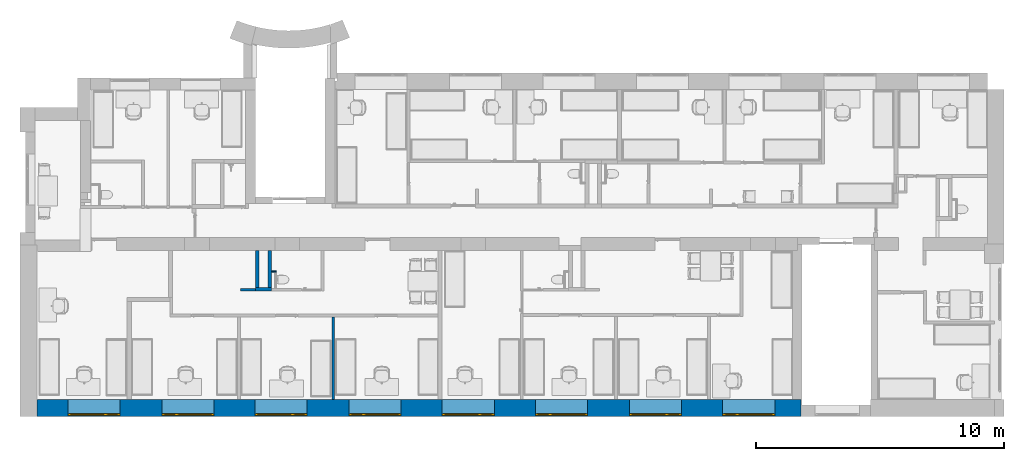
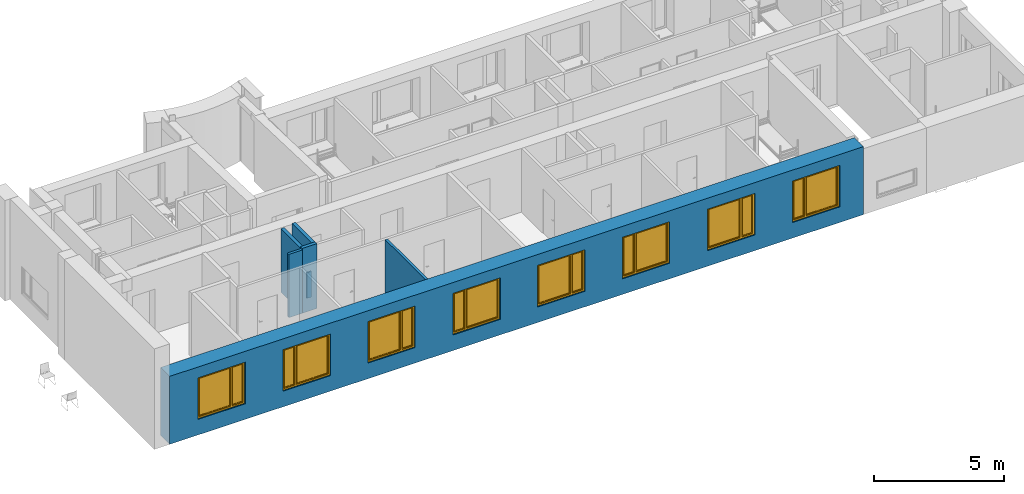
# One storey, part 3 of 46: 8 windows, 7 walls, 10 openings.
"""IFC2X3 building model written with IfcOpenShell, lengths in millimetres."""

import ifcopenshell
import ifcopenshell.guid

model = None  # the IFC model being written
_history = None  # IfcOwnerHistory: only IFC2X3 demands one
_inside = {}  # id of a spatial element -> (the spatial element, [elements in it])
_under = {}  # id of a project, library or spatial element -> (it, [spatial elements below it])
_declared = {}  # id of a project -> (the project, [libraries it declares])
_typed = {}  # id of a type object -> (the type object, [elements of that type])
_made_of = {}  # id of a material, layer set ... -> (it, [elements and type objects made of it])


def new_model(schema):
    """Start an empty IFC model of exactly this schema.

    Asked for "IFC4X3", IfcOpenShell would pick the latest addendum, in which some entities
    have other attributes; the version numbers below select the first issue.
    IFC2X3 requires an IfcOwnerHistory on every rooted entity: one is made here for all.
    """
    global model, _history
    if schema == "IFC4X3":
        model = ifcopenshell.file(schema_version=(4, 3, 0, 0))
    else:
        model = ifcopenshell.file(schema=schema)
    _inside.clear()
    _under.clear()
    _declared.clear()
    _typed.clear()
    _made_of.clear()
    _history = None
    if model.schema == "IFC2X3":
        org = make("IfcOrganization", Name="unknown")
        user = make(
            "IfcPersonAndOrganization",
            ThePerson=make("IfcPerson", FamilyName="unknown"),
            TheOrganization=org,
        )
        app = make(
            "IfcApplication",
            ApplicationDeveloper=org,
            Version="unknown",
            ApplicationFullName="unknown",
            ApplicationIdentifier="unknown",
        )
        _history = make(
            "IfcOwnerHistory",
            OwningUser=user,
            OwningApplication=app,
            ChangeAction="ADDED",
            CreationDate=0,
        )
    return model


def make(cls, **values):
    """One entity of the class cls with the attributes given. An attribute that is None is left unset."""
    return model.create_entity(
        cls, **{name: value for name, value in values.items() if value is not None}
    )


def entity(cls, *values):
    """Any entity or typed value of the class cls, its attributes in the order of the schema. None: left unset."""
    e = model.create_entity(cls)
    for i, value in enumerate(values):
        if value is not None:
            e[i] = value
    return e


def rooted(cls, **values):
    """An entity with a GlobalId (a new one), such as an element, a storey or a relation."""
    return make(cls, GlobalId=ifcopenshell.guid.new(), OwnerHistory=_history, **values)


def si_unit(unit_type, name, prefix=None):
    """IfcSIUnit, for example si_unit("LENGTHUNIT", "METRE", prefix="MILLI")."""
    return make("IfcSIUnit", UnitType=unit_type, Prefix=prefix, Name=name)


def converted_unit(unit_type, name, factor, base, dimensions=None, offset=None):
    """IfcConversionBasedUnit, such as the inch: factor (a typed value) times the base unit."""
    return make(
        "IfcConversionBasedUnit"
        if offset is None
        else "IfcConversionBasedUnitWithOffset",
        ConversionOffset=offset,
        Dimensions=None
        if dimensions is None
        else entity("IfcDimensionalExponents", *dimensions),
        UnitType=unit_type,
        Name=name,
        ConversionFactor=make(
            "IfcMeasureWithUnit", ValueComponent=factor, UnitComponent=base
        ),
    )


def derived_unit(unit_type, elements):
    """IfcDerivedUnit: a product of units, each with its exponent."""
    return make(
        "IfcDerivedUnit",
        Elements=[
            make("IfcDerivedUnitElement", Unit=unit, Exponent=power)
            for unit, power in elements
        ],
        UnitType=unit_type,
    )


def assignment(units):
    """IfcUnitAssignment: the units of a project."""
    return None if units is None else make("IfcUnitAssignment", Units=units)


def point(xyz):
    """IfcCartesianPoint."""
    return None if xyz is None else make("IfcCartesianPoint", Coordinates=xyz)


def direction(xyz):
    """IfcDirection."""
    return None if xyz is None else make("IfcDirection", DirectionRatios=xyz)


def frame(location, z_axis=None, x_axis=None):
    """IfcAxis2Placement3D, a coordinate frame: its origin and axes. An axis left out is left unset."""
    return make(
        "IfcAxis2Placement3D",
        Location=point(location),
        Axis=direction(z_axis),
        RefDirection=direction(x_axis),
    )


def frame_2d(location, x_axis=None):
    """IfcAxis2Placement2D, a coordinate frame in the plane: its origin and x axis."""
    return make(
        "IfcAxis2Placement2D", Location=point(location), RefDirection=direction(x_axis)
    )


def origin():
    """The frame at (0, 0, 0) with its axes left unset."""
    return frame((0.0, 0.0, 0.0))


def place(relative_to, where):
    """IfcLocalPlacement: puts the frame where relative to a parent placement (None: the world)."""
    return make(
        "IfcLocalPlacement", PlacementRelTo=relative_to, RelativePlacement=where
    )


def context(
    kind, dimensions, precision=None, world=None, true_north=None, identifier=None
):
    """IfcGeometricRepresentationContext, for example the 3D "Model" context."""
    return make(
        "IfcGeometricRepresentationContext",
        ContextIdentifier=identifier,
        ContextType=kind,
        CoordinateSpaceDimension=dimensions,
        Precision=precision,
        WorldCoordinateSystem=world,
        TrueNorth=true_north,
    )


def subcontext(parent, identifier, kind, view, scale=None):
    """IfcGeometricRepresentationSubContext, for example "Body" below "Model"."""
    return make(
        "IfcGeometricRepresentationSubContext",
        ContextIdentifier=identifier,
        ContextType=kind,
        ParentContext=parent,
        TargetScale=scale,
        TargetView=view,
    )


def project(units=None, contexts=None):
    """IfcProject with its units and contexts."""
    return rooted(
        "IfcProject",
        Name="project",
        RepresentationContexts=contexts,
        UnitsInContext=assignment(units),
    )


def spatial(cls, under=None, at=None, **own):
    """A site, building, storey or space (cls), placed at a placement, below another one or the project."""
    s = rooted(cls, ObjectPlacement=at, **own)
    if under is not None:
        _under.setdefault(under.id(), (under, []))[1].append(s)
    return s


def polyline(points):
    """IfcPolyline through the points."""
    return make("IfcPolyline", Points=[point(p) for p in points])


def profile(cls, at=None, kind="AREA", **sizes):
    """A parametric profile (cls). Its sizes go by their IFC names, for example OverallWidth=200.0."""
    return make(cls, ProfileType=kind, Position=at, **sizes)


def rectangle(**sizes):
    """IfcRectangleProfileDef."""
    return profile("IfcRectangleProfileDef", **sizes)


def extrude(swept, where, along, depth):
    """IfcExtrudedAreaSolid: the profile swept, set in the frame where, extruded along a direction by depth."""
    return make(
        "IfcExtrudedAreaSolid",
        SweptArea=swept,
        Position=where,
        ExtrudedDirection=direction(along),
        Depth=depth,
    )


def clip(a, b, op="DIFFERENCE"):
    """IfcBooleanClippingResult: the solid a cut by the half space b."""
    return make(
        "IfcBooleanClippingResult", Operator=op, FirstOperand=a, SecondOperand=b
    )


def bounded_halfspace(plane, agree, where, boundary):
    """IfcPolygonalBoundedHalfSpace: a half space limited to a polygon's prism."""
    return make(
        "IfcPolygonalBoundedHalfSpace",
        BaseSurface=make("IfcPlane", Position=plane),
        AgreementFlag=agree,
        Position=where,
        PolygonalBoundary=boundary,
    )


def faces_of(points, faces, orient=None, outer=None):
    """IfcFace entities. A face is a list of loops; a loop is a list of indices into points, from 0.

    orient and outer hold one flag for each loop. By default every Orientation is true, the
    first loop of a face is its IfcFaceOuterBound and the others are IfcFaceBound.
    """
    made = []
    for i, loops in enumerate(faces):
        bounds = []
        for j, loop in enumerate(loops):
            is_outer = j == 0 if outer is None else outer[i][j]
            bounds.append(
                make(
                    "IfcFaceOuterBound" if is_outer else "IfcFaceBound",
                    Bound=make("IfcPolyLoop", Polygon=[points[k] for k in loop]),
                    Orientation=True if orient is None else orient[i][j],
                )
            )
        made.append(make("IfcFace", Bounds=bounds))
    return made


def faceted_brep(points, faces, orient=None, outer=None, voids=None):
    """IfcFacetedBrep: a solid bounded by flat faces; with voids (closed shells), ...WithVoids."""
    shared = [point(p) for p in points]
    hull = make("IfcClosedShell", CfsFaces=faces_of(shared, faces, orient, outer))
    if voids is None:
        return make("IfcFacetedBrep", Outer=hull)
    return make(
        "IfcFacetedBrepWithVoids",
        Outer=hull,
        Voids=[
            make(cls, CfsFaces=faces_of(shared, fs, o, b)) for cls, fs, o, b in voids
        ],
    )


def shape(context_of_items, identifier, shape_type, items):
    """IfcShapeRepresentation: the items that make up one representation, for example the "Body"."""
    return make(
        "IfcShapeRepresentation",
        ContextOfItems=context_of_items,
        RepresentationIdentifier=identifier,
        RepresentationType=shape_type,
        Items=items,
    )


def source(mapping_origin, context_of_items, identifier, shape_type, items):
    """IfcRepresentationMap: a shape defined once, which mapped items show again and again."""
    return make(
        "IfcRepresentationMap",
        MappingOrigin=mapping_origin,
        MappedRepresentation=shape(context_of_items, identifier, shape_type, items),
    )


def transform(
    local_origin,
    x_axis=None,
    y_axis=None,
    z_axis=None,
    scale=None,
    scale2=None,
    scale3=None,
    uniform=True,
):
    """IfcCartesianTransformationOperator3D, or its non-uniform kind. x_axis, y_axis, z_axis: its Axis1, 2, 3."""
    if uniform:
        return make(
            "IfcCartesianTransformationOperator3D",
            Axis1=direction(x_axis),
            Axis2=direction(y_axis),
            LocalOrigin=point(local_origin),
            Scale=scale,
            Axis3=direction(z_axis),
        )
    return make(
        "IfcCartesianTransformationOperator3DnonUniform",
        Axis1=direction(x_axis),
        Axis2=direction(y_axis),
        LocalOrigin=point(local_origin),
        Scale=scale,
        Axis3=direction(z_axis),
        Scale2=scale2,
        Scale3=scale3,
    )


def mapped(mapping_source, mapping_target):
    """IfcMappedItem: shows the shape of a source again, moved by a transform."""
    return make(
        "IfcMappedItem", MappingSource=mapping_source, MappingTarget=mapping_target
    )


def material(Name=None, Category=None):
    """IfcMaterial."""
    return make("IfcMaterial", Name=Name, Category=Category)


def material_list(materials):
    """IfcMaterialList."""
    return make("IfcMaterialList", Materials=materials)


def layer(
    of_material, thickness, ventilated=None, Name=None, Category=None, Priority=None
):
    """IfcMaterialLayer: one layer of a wall or slab, of a material (None: an air gap)."""
    return make(
        "IfcMaterialLayer",
        Material=of_material,
        LayerThickness=thickness,
        IsVentilated=ventilated,
        Name=Name,
        Category=Category,
        Priority=Priority,
    )


def layer_set(layers, Name=None):
    """IfcMaterialLayerSet."""
    return make("IfcMaterialLayerSet", MaterialLayers=layers, LayerSetName=Name)


def layer_usage(for_layer_set, set_direction, sense, offset, extent=None):
    """IfcMaterialLayerSetUsage: how a layer set lies in its element."""
    return make(
        "IfcMaterialLayerSetUsage",
        ForLayerSet=for_layer_set,
        LayerSetDirection=set_direction,
        DirectionSense=sense,
        OffsetFromReferenceLine=offset,
        ReferenceExtent=extent,
    )


def made_of(thing, what):
    """Note that an element or type object is made of a material, layer set ...; save() writes the relation."""
    if what is not None:
        _made_of.setdefault(what.id(), (what, []))[1].append(thing)
    return thing


def type_object(cls, material=None, **own):
    """A type object (cls), such as IfcWallType, which elements share."""
    return made_of(rooted(cls, **own), material)


def type_shapes(of_type, sources):
    """Give a type object the sources (RepresentationMaps) that its elements show as mapped items."""
    of_type.RepresentationMaps = sources


def element(
    cls,
    number,
    at=None,
    inside=None,
    cuts=None,
    type_object=None,
    material=None,
    context=None,
    identifier="Body",
    shape_type=None,
    held_by="IfcProductDefinitionShape",
    body=None,
    shapes=None,
    **own,
):
    """One element of the class cls, such as IfcWall. Its Tag is "e" and its number.

    at: its placement. inside: the storey or other place that contains it. cuts: it is an
    opening in that element (IfcRelVoidsElement). A single representation is given by context,
    identifier, shape_type and body (its items); several are given by shapes. held_by: the class
    of the entity that holds the representations. save() writes the other relations.
    """
    e = rooted(cls, Tag="e%d" % number, ObjectPlacement=at, **own)
    if body is not None:
        shapes = [shape(context, identifier, shape_type, body)]
    if shapes is not None:
        e.Representation = make(held_by, Representations=shapes)
    if inside is not None:
        _inside.setdefault(inside.id(), (inside, []))[1].append(e)
    if cuts is not None:
        rooted(
            "IfcRelVoidsElement", RelatingBuildingElement=cuts, RelatedOpeningElement=e
        )
    if type_object is not None:
        _typed.setdefault(type_object.id(), (type_object, []))[1].append(e)
    return made_of(e, material)


def fill(opening, filler):
    """IfcRelFillsElement: the door or window that sits in an opening."""
    return rooted(
        "IfcRelFillsElement",
        RelatingOpeningElement=opening,
        RelatedBuildingElement=filler,
    )


def aggregate(whole, parts):
    """IfcRelAggregates: a whole, such as a stair, and the parts it consists of."""
    return rooted("IfcRelAggregates", RelatingObject=whole, RelatedObjects=parts)


def save(model, path):
    """Write the relations noted so far, then the file.

    IfcRelAggregates (storeys below a building ...), IfcRelContainedInSpatialStructure (elements
    in a storey), IfcRelDefinesByType, IfcRelAssociatesMaterial and IfcRelDeclares: one each for
    every whole, place, type object, material and project.
    """
    for whole, parts in _under.values():
        aggregate(whole, parts)
    for where, things in _inside.values():
        rooted(
            "IfcRelContainedInSpatialStructure",
            RelatedElements=things,
            RelatingStructure=where,
        )
    for kind, things in _typed.values():
        rooted("IfcRelDefinesByType", RelatedObjects=things, RelatingType=kind)
    for what, things in _made_of.values():
        rooted("IfcRelAssociatesMaterial", RelatedObjects=things, RelatingMaterial=what)
    for by, libraries in _declared.values():
        rooted("IfcRelDeclares", RelatingContext=by, RelatedDefinitions=libraries)
    model.write(path)


model = new_model("IFC2X3")

# Units and contexts
model_context = context("Model", 3, precision=0.01, world=origin(), true_north=direction((6.12303176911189e-17, 1.0)))
body_context = subcontext(model_context, "Body", "Model", "MODEL_VIEW")
ifc_project = project(units=[si_unit("LENGTHUNIT", "METRE", prefix="MILLI"), si_unit("AREAUNIT", "SQUARE_METRE"), si_unit("VOLUMEUNIT", "CUBIC_METRE"), converted_unit("PLANEANGLEUNIT", "DEGREE", entity("IfcRatioMeasure", 0.0174532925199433), si_unit("PLANEANGLEUNIT", "RADIAN"), dimensions=[0, 0, 0, 0, 0, 0, 0]), si_unit("MASSUNIT", "GRAM", prefix="KILO"), derived_unit("MASSDENSITYUNIT", [(si_unit("MASSUNIT", "GRAM", prefix="KILO"), 1), (si_unit("LENGTHUNIT", "METRE"), -3)]), si_unit("TIMEUNIT", "SECOND"), si_unit("FREQUENCYUNIT", "HERTZ"), si_unit("THERMODYNAMICTEMPERATUREUNIT", "DEGREE_CELSIUS"), derived_unit("THERMALTRANSMITTANCEUNIT", [(si_unit("MASSUNIT", "GRAM", prefix="KILO"), 1), (si_unit("THERMODYNAMICTEMPERATUREUNIT", "KELVIN"), -1), (si_unit("TIMEUNIT", "SECOND"), -3)]), derived_unit("VOLUMETRICFLOWRATEUNIT", [(si_unit("LENGTHUNIT", "METRE"), 3), (si_unit("TIMEUNIT", "SECOND"), -1)]), si_unit("ELECTRICCURRENTUNIT", "AMPERE"), si_unit("ELECTRICVOLTAGEUNIT", "VOLT"), si_unit("POWERUNIT", "WATT"), si_unit("FORCEUNIT", "NEWTON", prefix="KILO"), si_unit("ILLUMINANCEUNIT", "LUX"), si_unit("LUMINOUSFLUXUNIT", "LUMEN"), si_unit("LUMINOUSINTENSITYUNIT", "CANDELA"), derived_unit("USERDEFINED", [(si_unit("MASSUNIT", "GRAM", prefix="KILO"), -1), (si_unit("LENGTHUNIT", "METRE"), -2), (si_unit("TIMEUNIT", "SECOND"), 3), (si_unit("LUMINOUSFLUXUNIT", "LUMEN"), 1)]), derived_unit("LINEARVELOCITYUNIT", [(si_unit("LENGTHUNIT", "METRE"), 1), (si_unit("TIMEUNIT", "SECOND"), -1)]), si_unit("PRESSUREUNIT", "PASCAL"), derived_unit("USERDEFINED", [(si_unit("LENGTHUNIT", "METRE"), -2), (si_unit("MASSUNIT", "GRAM", prefix="KILO"), 1), (si_unit("TIMEUNIT", "SECOND"), -2)]), derived_unit("LINEARFORCEUNIT", [(si_unit("MASSUNIT", "GRAM", prefix="KILO"), 1), (si_unit("LENGTHUNIT", "METRE"), 1), (si_unit("TIMEUNIT", "SECOND"), -2), (si_unit("LENGTHUNIT", "METRE"), -1)]), derived_unit("PLANARFORCEUNIT", [(si_unit("MASSUNIT", "GRAM", prefix="KILO"), 1), (si_unit("LENGTHUNIT", "METRE"), 1), (si_unit("TIMEUNIT", "SECOND"), -2), (si_unit("LENGTHUNIT", "METRE"), -2)])], contexts=[model_context])

# Site, building, storey
site_placement = place(None, origin())
site = spatial("IfcSite", under=ifc_project, at=site_placement, Name="Default", CompositionType="ELEMENT")
building_placement = place(site_placement, origin())
building = spatial("IfcBuilding", under=site, at=building_placement, Name="SMA ARH", CompositionType="ELEMENT")
storey_placement = place(building_placement, frame((0.0, 0.0, 9910.0)))
storey = spatial("IfcBuildingStorey", under=building, at=storey_placement, Name="4 Korrus", CompositionType="ELEMENT", Elevation=9909.9999999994)

# Wall, openings, windows
ifc_material_1 = material(Name="_ol.olev sein")
ifc_layer_1 = layer(ifc_material_1, 700.0)
ifc_layer_set_1 = layer_set([ifc_layer_1], Name="Basic Wall:Generic - 700mm")
ifc_layer_usage_1 = layer_usage(ifc_layer_set_1, "AXIS2", "POSITIVE", -350.0)
wall_type_1 = type_object("IfcWallType", Name="Basic Wall:Generic - 700mm", PredefinedType="STANDARD", material=ifc_layer_set_1)
wall_1_placement = place(storey_placement, frame((-20.0, -350.0, 0.0)))
wall_1 = element("IfcWallStandardCase", 1, at=wall_1_placement, inside=storey, type_object=wall_type_1, material=ifc_layer_usage_1, Name="Basic Wall:Generic - 700mm", ObjectType="Basic Wall:Generic - 700mm", context=body_context, shape_type="Clipping", body=[
    clip(clip(clip(extrude(rectangle(XDim=30800.5990008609, YDim=700.0, at=frame_2d((15400.2995004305, -5.6843418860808e-14), x_axis=(-1.0, 0.0))), origin(), (0.0, 0.0, 1.0), 3190.00000000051), bounded_halfspace(frame((30683.6581492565, 350.0, 3090.0), z_axis=(0.0, 0.0, -1.0), x_axis=(0.0, -1.0, 0.0)), True, frame((30683.6581492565, 350.0, 3090.0), z_axis=(0.0, 0.0, -1.0), x_axis=(0.0, -1.0, 0.0)), polyline([(0.0, 0.0), (0.0, -116.940851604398), (230.0, -116.940851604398), (700.0, -116.9408516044), (700.0, 0.0), (0.0, 0.0)]))), bounded_halfspace(frame((30683.6581492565, -350.0, 3090.0), z_axis=(-1.0, 0.0, 0.0), x_axis=(0.0, -1.0, 0.0)), True, frame((30683.6581492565, -350.0, 3090.0), z_axis=(-1.0, 0.0, 0.0), x_axis=(0.0, -1.0, 0.0)), polyline([(0.0, 0.0), (0.0, 100.0), (-700.0, 100.0), (-700.0, 0.0), (0.0, 0.0)]))), bounded_halfspace(frame((30666.9009991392, -350.0, 3050.0), z_axis=(0.0, -0.0348994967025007, 0.999390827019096), x_axis=(1.0, 0.0, 0.0)), False, frame((30666.9009991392, -350.0, 3050.0), z_axis=(0.0, -0.0348994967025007, 0.999390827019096), x_axis=(1.0, 0.0, 0.0)), polyline([(0.0, 0.0), (0.0, 700.426681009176), (-196.900999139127, 700.426681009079), (-30623.6581492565, 700.426681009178), (-30623.6581492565, 0.0), (0.0, 0.0)]))),
])
opening_1_placement = place(wall_1_placement, origin())
element("IfcOpeningElement", 2, at=opening_1_placement, cuts=wall_1, Name="Basic Wall:Generic - 700mm", ObjectType="Recess", context=body_context, shape_type="SweptSolid", body=[
    extrude(rectangle(XDim=761.05, YDim=2098.41008000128, at=frame_2d((2.1600499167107e-12, 0.0), x_axis=(0.0, 1.0))), frame((28700.7949599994, 250.0, 319.475000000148), z_axis=(0.0, 1.0, 0.0), x_axis=(1.0, 0.0, 0.0)), (0.0, 0.0, 1.0), 100.0),
    extrude(rectangle(XDim=761.05, YDim=2098.41008000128, at=frame_2d((-2.1600499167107e-12, 0.0), x_axis=(0.0, 1.0))), frame((24935.7949599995, 250.0, 319.475000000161), z_axis=(0.0, 1.0, 0.0), x_axis=(1.0, 0.0, 0.0)), (0.0, 0.0, 1.0), 100.0),
    extrude(rectangle(XDim=761.05, YDim=2098.41008000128, at=frame_2d((0.0, 0.0), x_axis=(0.0, 1.0))), frame((21150.7949599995, 250.0, 319.475000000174), z_axis=(0.0, 1.0, 0.0), x_axis=(1.0, 0.0, 0.0)), (0.0, 0.0, 1.0), 100.0),
    extrude(rectangle(XDim=761.05, YDim=2098.41008000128, at=frame_2d((0.0, 0.0), x_axis=(0.0, 1.0))), frame((17390.7949599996, 250.0, 319.475000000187), z_axis=(0.0, 1.0, 0.0), x_axis=(1.0, 0.0, 0.0)), (0.0, 0.0, 1.0), 100.0),
    extrude(rectangle(XDim=761.05, YDim=2098.41008000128, at=frame_2d((0.0, 0.0), x_axis=(0.0, 1.0))), frame((13630.7949599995, 250.0, 319.4750000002), z_axis=(0.0, 1.0, 0.0), x_axis=(1.0, 0.0, 0.0)), (0.0, 0.0, 1.0), 100.0),
    extrude(rectangle(XDim=761.05, YDim=2098.41008000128, at=frame_2d((0.0, 0.0), x_axis=(0.0, 1.0))), frame((9850.79495999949, 250.0, 319.475000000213), z_axis=(0.0, 1.0, 0.0), x_axis=(1.0, 0.0, 0.0)), (0.0, 0.0, 1.0), 100.0),
    extrude(rectangle(XDim=761.05, YDim=2098.41008000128, at=frame_2d((0.0, 0.0), x_axis=(0.0, 1.0))), frame((6090.79495999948, 250.0, 319.475000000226), z_axis=(0.0, 1.0, 0.0), x_axis=(1.0, 0.0, 0.0)), (0.0, 0.0, 1.0), 100.0),
    extrude(rectangle(XDim=761.05, YDim=2098.41008000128, at=frame_2d((1.13686837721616e-13, 0.0), x_axis=(0.0, 1.0))), frame((2310.79495999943, 250.0, 319.475000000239), z_axis=(0.0, 1.0, 0.0), x_axis=(1.0, 0.0, 0.0)), (0.0, 0.0, 1.0), 100.0),
])
opening_2_placement = place(wall_1_placement, origin())
element("IfcOpeningElement", 3, at=opening_2_placement, cuts=wall_1, Name="Basic Wall:Generic - 700mm", ObjectType="Opening", context=body_context, shape_type="SweptSolid", body=[
    extrude(rectangle(XDim=820.0, YDim=1800.0, at=frame_2d((0.0, 0.0), x_axis=(0.0, 1.0))), frame((32270.0, -1404.0, 955.0), z_axis=(0.0, 1.0, 0.0), x_axis=(-1.0, 0.0, 0.0)), (0.0, 0.0, 1.0), 3048.0),
])
opening_3_placement = place(wall_1_placement, frame((3360.0, 350.0, 730.0)))
opening_3 = element("IfcOpeningElement", 4, at=opening_3_placement, cuts=wall_1, Name="SMA_W2, 2-jaotus:A-00 - 2100x1900:1", ObjectType="Opening", context=body_context, shape_type="SweptSolid", body=[
    extrude(rectangle(XDim=1950.0, YDim=2100.0, at=frame_2d((974.999999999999, 1050.0), x_axis=(1.0, 0.0))), frame((0.0, 0.0, 0.0), z_axis=(0.0, -1.0, 0.0), x_axis=(0.0, 0.0, 1.0)), (0.0, 0.0, 1.0), 700.0),
])
opening_4_placement = place(wall_1_placement, frame((7140.0, 350.0, 730.0)))
opening_4 = element("IfcOpeningElement", 5, at=opening_4_placement, cuts=wall_1, Name="SMA_W2, 2-jaotus:A-00 - 2100x1900:1", ObjectType="Opening", context=body_context, shape_type="SweptSolid", body=[
    extrude(rectangle(XDim=1950.0, YDim=2100.0, at=frame_2d((974.999999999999, 1050.0), x_axis=(1.0, 0.0))), frame((0.0, 0.0, 0.0), z_axis=(0.0, -1.0, 0.0), x_axis=(0.0, 0.0, 1.0)), (0.0, 0.0, 1.0), 700.0),
])
opening_5_placement = place(wall_1_placement, frame((10900.0, 350.0, 730.0)))
opening_5 = element("IfcOpeningElement", 6, at=opening_5_placement, cuts=wall_1, Name="SMA_W2, 2-jaotus:A-00 - 2100x1900:1", ObjectType="Opening", context=body_context, shape_type="SweptSolid", body=[
    extrude(rectangle(XDim=1950.0, YDim=2100.0, at=frame_2d((974.999999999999, 1050.0), x_axis=(1.0, 0.0))), frame((0.0, 0.0, 0.0), z_axis=(0.0, -1.0, 0.0), x_axis=(0.0, 0.0, 1.0)), (0.0, 0.0, 1.0), 700.0),
])
opening_6_placement = place(wall_1_placement, frame((14680.0, 350.0, 730.0)))
opening_6 = element("IfcOpeningElement", 7, at=opening_6_placement, cuts=wall_1, Name="SMA_W2, 2-jaotus:A-00 - 2100x1900:1", ObjectType="Opening", context=body_context, shape_type="SweptSolid", body=[
    extrude(rectangle(XDim=1950.0, YDim=2100.0, at=frame_2d((974.999999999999, 1050.0), x_axis=(1.0, 0.0))), frame((0.0, 0.0, 0.0), z_axis=(0.0, -1.0, 0.0), x_axis=(0.0, 0.0, 1.0)), (0.0, 0.0, 1.0), 700.0),
])
opening_7_placement = place(wall_1_placement, frame((18440.0, 350.0, 730.0)))
opening_7 = element("IfcOpeningElement", 8, at=opening_7_placement, cuts=wall_1, Name="SMA_W2, 2-jaotus:A-00 - 2100x1900:1", ObjectType="Opening", context=body_context, shape_type="SweptSolid", body=[
    extrude(rectangle(XDim=1950.0, YDim=2100.0, at=frame_2d((974.999999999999, 1050.0), x_axis=(1.0, 0.0))), frame((0.0, 0.0, 0.0), z_axis=(0.0, -1.0, 0.0), x_axis=(0.0, 0.0, 1.0)), (0.0, 0.0, 1.0), 700.0),
])
opening_8_placement = place(wall_1_placement, frame((22200.0, 350.0, 730.0)))
opening_8 = element("IfcOpeningElement", 9, at=opening_8_placement, cuts=wall_1, Name="SMA_W2, 2-jaotus:A-00 - 2100x1900:1", ObjectType="Opening", context=body_context, shape_type="SweptSolid", body=[
    extrude(rectangle(XDim=1950.0, YDim=2100.0, at=frame_2d((974.999999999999, 1050.0), x_axis=(1.0, 0.0))), frame((0.0, 0.0, 0.0), z_axis=(0.0, -1.0, 0.0), x_axis=(0.0, 0.0, 1.0)), (0.0, 0.0, 1.0), 700.0),
])
opening_9_placement = place(wall_1_placement, frame((25985.0, 350.0, 730.0)))
opening_9 = element("IfcOpeningElement", 10, at=opening_9_placement, cuts=wall_1, Name="SMA_W2, 2-jaotus:A-00 - 2100x1900:1", ObjectType="Opening", context=body_context, shape_type="SweptSolid", body=[
    extrude(rectangle(XDim=1950.0, YDim=2100.0, at=frame_2d((974.999999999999, 1050.0), x_axis=(1.0, 0.0))), frame((0.0, 0.0, 0.0), z_axis=(0.0, -1.0, 0.0), x_axis=(0.0, 0.0, 1.0)), (0.0, 0.0, 1.0), 700.0),
])
opening_10_placement = place(wall_1_placement, frame((29750.0, 350.0, 730.0)))
opening_10 = element("IfcOpeningElement", 11, at=opening_10_placement, cuts=wall_1, Name="SMA_W2, 2-jaotus:A-00 - 2100x1900:1", ObjectType="Opening", context=body_context, shape_type="SweptSolid", body=[
    extrude(rectangle(XDim=1950.0, YDim=2100.0, at=frame_2d((974.999999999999, 1050.0), x_axis=(1.0, 0.0))), frame((0.0, 0.0, 0.0), z_axis=(0.0, -1.0, 0.0), x_axis=(0.0, 0.0, 1.0)), (0.0, 0.0, 1.0), 700.0),
])
ifc_material_2 = material(Name="Glass")
ifc_material_3 = material(Name="Hall")
ifc_material_list_1 = material_list([ifc_material_2, ifc_material_3])
ifc_material_4 = material(Name="<Unnamed>")
ifc_material_list_2 = material_list([ifc_material_4, ifc_material_3, ifc_material_3, ifc_material_2, ifc_material_4])
window_style_1 = type_object("IfcWindowStyle", Name="SMA_W2, 2-jaotus:A-00 - 2100x1900", ConstructionType="NOTDEFINED", OperationType="NOTDEFINED", ParameterTakesPrecedence=False, Sizeable=False, material=ifc_material_list_2)
shared_shape_1 = source(origin(), body_context, "Body", "Brep", [
    faceted_brep([(1995.0, 590.0, 1845.0), (660.0, 590.0, 1845.0), (660.0, 590.0, 105.0), (1995.0, 590.0, 105.0), (1995.0, 610.0, 105.0), (1995.0, 610.0, 1845.0), (660.0, 610.0, 105.0), (660.0, 610.0, 1845.0)], [[[0, 1, 2, 3]], [[3, 4, 5, 0]], [[2, 6, 4, 3]], [[1, 7, 6, 2]], [[5, 4, 6, 7]], [[0, 5, 7, 1]]]),
    faceted_brep([(520.0, 590.0, 105.0), (520.0, 590.0, 1845.0), (105.0, 590.0, 1845.0), (105.0, 590.0, 105.0), (105.0, 610.0, 105.0), (520.0, 610.0, 105.0), (105.0, 610.0, 1845.0), (520.0, 610.0, 1845.0)], [[[0, 1, 2, 3]], [[3, 4, 5, 0]], [[2, 6, 4, 3]], [[0, 5, 7, 1]], [[5, 4, 6, 7]], [[1, 7, 6, 2]]]),
    faceted_brep([(2065.0, 575.0, 35.0), (2065.0, 575.0, 1915.0), (590.0, 575.0, 1915.0), (590.0, 575.0, 35.0), (660.0, 575.0, 1845.0), (1995.0, 575.0, 1845.0), (1995.0, 575.0, 105.0), (660.0, 575.0, 105.0), (590.0, 625.0, 35.0), (2065.0, 625.0, 35.0), (590.0, 625.0, 1915.0), (2065.0, 625.0, 1915.0), (660.0, 625.0, 105.0), (660.0, 625.0, 1845.0), (1995.0, 625.0, 105.0), (1995.0, 625.0, 1845.0)], [[[0, 1, 2, 3], [4, 5, 6, 7]], [[3, 8, 9, 0]], [[2, 10, 8, 3]], [[0, 9, 11, 1]], [[7, 12, 13, 4]], [[6, 14, 12, 7]], [[5, 15, 14, 6]], [[9, 8, 10, 11], [13, 12, 14, 15]], [[1, 11, 10, 2]], [[4, 13, 15, 5]]]),
    faceted_brep([(590.0, 575.0, 35.0), (590.0, 575.0, 1915.0), (35.0, 575.0, 1915.0), (35.0, 575.0, 35.0), (105.0, 575.0, 1845.0), (520.0, 575.0, 1845.0), (520.0, 575.0, 105.0), (105.0, 575.0, 105.0), (35.0, 625.0, 35.0), (590.0, 625.0, 35.0), (35.0, 625.0, 1915.0), (590.0, 625.0, 1915.0), (105.0, 625.0, 105.0), (105.0, 625.0, 1845.0), (520.0, 625.0, 105.0), (520.0, 625.0, 1845.0)], [[[0, 1, 2, 3], [4, 5, 6, 7]], [[3, 8, 9, 0]], [[2, 10, 8, 3]], [[0, 9, 11, 1]], [[7, 12, 13, 4]], [[6, 14, 12, 7]], [[5, 15, 14, 6]], [[9, 8, 10, 11], [13, 12, 14, 15]], [[1, 11, 10, 2]], [[4, 13, 15, 5]]]),
    faceted_brep([(35.0, 600.0, 35.0), (35.0, 600.0, 1915.0), (590.0, 600.0, 1915.0), (590.0, 600.0, 35.0), (2030.0, 600.0, 1880.0), (2030.0, 600.0, 70.0), (625.0, 600.0, 70.0), (625.0, 600.0, 1880.0), (2100.0, 600.0, 0.0), (2100.0, 600.0, 1950.0), (0.0, 600.0, 1950.0), (0.0, 600.0, 0.0), (0.0, 650.0, 0.0), (2100.0, 650.0, 0.0), (0.0, 650.0, 1950.0), (2100.0, 650.0, 1950.0), (625.0, 650.0, 70.0), (625.0, 650.0, 1880.0), (2030.0, 650.0, 70.0), (2030.0, 650.0, 1880.0), (35.0, 625.0, 35.0), (590.0, 625.0, 35.0), (590.0, 625.0, 1915.0), (35.0, 625.0, 1915.0), (555.0, 650.0, 1880.0), (70.0, 650.0, 1880.0), (70.0, 650.0, 70.0), (555.0, 650.0, 70.0), (555.0, 625.0, 70.0), (555.0, 625.0, 1880.0), (70.0, 625.0, 70.0), (70.0, 625.0, 1880.0)], [[[0, 1, 2, 3], [4, 5, 6, 7], [8, 9, 10, 11]], [[11, 12, 13, 8]], [[10, 14, 12, 11]], [[8, 13, 15, 9]], [[6, 16, 17, 7]], [[5, 18, 16, 6]], [[4, 19, 18, 5]], [[20, 0, 3, 21]], [[21, 3, 2, 22]], [[23, 1, 0, 20]], [[13, 12, 14, 15], [19, 17, 16, 18], [24, 25, 26, 27]], [[27, 28, 29, 24]], [[26, 30, 28, 27]], [[25, 31, 30, 26]], [[21, 22, 23, 20], [29, 28, 30, 31]], [[9, 15, 14, 10]], [[7, 17, 19, 4]], [[22, 2, 1, 23]], [[24, 29, 31, 25]]], outer=[[False, False, True], [True], [True], [True], [True], [True], [True], [True], [True], [True], [True, False, False], [True], [True], [True], [True, False], [True], [True], [True], [True]]),
])
type_shapes(window_style_1, [shared_shape_1])
window_1_placement = place(opening_3_placement, frame((0.0, 0.0, 0.0), z_axis=(0.0, 0.0, 1.0), x_axis=(-1.0, 0.0, 0.0)))
window_1 = element("IfcWindow", 12, at=window_1_placement, inside=storey, type_object=window_style_1, material=ifc_material_list_1, Name="SMA_W2, 2-jaotus:A-00 - 2100x1900", ObjectType="SMA_W2, 2-jaotus:A-00 - 2100x1900", OverallHeight=1950.0, OverallWidth=2100.0, context=body_context, shape_type="MappedRepresentation", body=[
    mapped(shared_shape_1, transform((0.0, 0.0, 0.0), scale=1.0)),
])
fill(opening_3, window_1)
ifc_material_list_3 = material_list([ifc_material_2, ifc_material_3])
window_2_placement = place(opening_5_placement, frame((0.0, 0.0, 0.0), z_axis=(0.0, 0.0, 1.0), x_axis=(-1.0, 0.0, 0.0)))
window_2 = element("IfcWindow", 13, at=window_2_placement, inside=storey, type_object=window_style_1, material=ifc_material_list_3, Name="SMA_W2, 2-jaotus:A-00 - 2100x1900", ObjectType="SMA_W2, 2-jaotus:A-00 - 2100x1900", OverallHeight=1950.0, OverallWidth=2100.0, context=body_context, shape_type="MappedRepresentation", body=[
    mapped(shared_shape_1, transform((0.0, 0.0, 0.0), scale=1.0)),
])
fill(opening_5, window_2)
ifc_material_list_4 = material_list([ifc_material_2, ifc_material_3])
window_3_placement = place(opening_7_placement, frame((0.0, 0.0, 0.0), z_axis=(0.0, 0.0, 1.0), x_axis=(-1.0, 0.0, 0.0)))
window_3 = element("IfcWindow", 14, at=window_3_placement, inside=storey, type_object=window_style_1, material=ifc_material_list_4, Name="SMA_W2, 2-jaotus:A-00 - 2100x1900", ObjectType="SMA_W2, 2-jaotus:A-00 - 2100x1900", OverallHeight=1950.0, OverallWidth=2100.0, context=body_context, shape_type="MappedRepresentation", body=[
    mapped(shared_shape_1, transform((0.0, 0.0, 0.0), scale=1.0)),
])
fill(opening_7, window_3)
ifc_material_list_5 = material_list([ifc_material_2, ifc_material_3])
window_4_placement = place(opening_9_placement, frame((0.0, 0.0, 0.0), z_axis=(0.0, 0.0, 1.0), x_axis=(-1.0, 0.0, 0.0)))
window_4 = element("IfcWindow", 15, at=window_4_placement, inside=storey, type_object=window_style_1, material=ifc_material_list_5, Name="SMA_W2, 2-jaotus:A-00 - 2100x1900", ObjectType="SMA_W2, 2-jaotus:A-00 - 2100x1900", OverallHeight=1950.0, OverallWidth=2100.0, context=body_context, shape_type="MappedRepresentation", body=[
    mapped(shared_shape_1, transform((0.0, 0.0, 0.0), scale=1.0)),
])
fill(opening_9, window_4)
ifc_material_list_6 = material_list([ifc_material_2, ifc_material_3])
ifc_material_list_7 = material_list([ifc_material_3, ifc_material_2, ifc_material_3, ifc_material_4, ifc_material_4])
window_style_2 = type_object("IfcWindowStyle", Name="SMA_W2, 2-jaotus:A-00 - 2100x1900", ConstructionType="NOTDEFINED", OperationType="NOTDEFINED", ParameterTakesPrecedence=False, Sizeable=False, material=ifc_material_list_7)
shared_shape_2 = source(origin(), body_context, "Body", "Brep", [
    faceted_brep([(105.0, 590.0, 1845.0), (105.0, 590.0, 105.0), (1440.0, 590.0, 105.0), (1440.0, 590.0, 1845.0), (105.0, 610.0, 1845.0), (105.0, 610.0, 105.0), (1440.0, 610.0, 105.0), (1440.0, 610.0, 1845.0)], [[[0, 1, 2, 3]], [[1, 0, 4, 5]], [[2, 1, 5, 6]], [[3, 2, 6, 7]], [[4, 7, 6, 5]], [[0, 3, 7, 4]]]),
    faceted_brep([(1580.0, 590.0, 105.0), (1995.0, 590.0, 105.0), (1995.0, 590.0, 1845.0), (1580.0, 590.0, 1845.0), (1580.0, 610.0, 105.0), (1995.0, 610.0, 105.0), (1995.0, 610.0, 1845.0), (1580.0, 610.0, 1845.0)], [[[0, 1, 2, 3]], [[1, 0, 4, 5]], [[2, 1, 5, 6]], [[0, 3, 7, 4]], [[4, 7, 6, 5]], [[3, 2, 6, 7]]]),
    faceted_brep([(35.0, 575.0, 35.0), (1510.0, 575.0, 35.0), (1510.0, 575.0, 1915.0), (35.0, 575.0, 1915.0), (1440.0, 575.0, 1845.0), (1440.0, 575.0, 105.0), (105.0, 575.0, 105.0), (105.0, 575.0, 1845.0), (35.0, 625.0, 35.0), (1510.0, 625.0, 35.0), (1510.0, 625.0, 1915.0), (35.0, 625.0, 1915.0), (1440.0, 625.0, 1845.0), (1440.0, 625.0, 105.0), (105.0, 625.0, 105.0), (105.0, 625.0, 1845.0)], [[[0, 1, 2, 3], [4, 5, 6, 7]], [[1, 0, 8, 9]], [[2, 1, 9, 10]], [[0, 3, 11, 8]], [[5, 4, 12, 13]], [[6, 5, 13, 14]], [[7, 6, 14, 15]], [[8, 11, 10, 9], [12, 15, 14, 13]], [[3, 2, 10, 11]], [[4, 7, 15, 12]]]),
    faceted_brep([(1510.0, 575.0, 35.0), (2065.0, 575.0, 35.0), (2065.0, 575.0, 1915.0), (1510.0, 575.0, 1915.0), (1995.0, 575.0, 1845.0), (1995.0, 575.0, 105.0), (1580.0, 575.0, 105.0), (1580.0, 575.0, 1845.0), (1510.0, 625.0, 35.0), (2065.0, 625.0, 35.0), (2065.0, 625.0, 1915.0), (1510.0, 625.0, 1915.0), (1995.0, 625.0, 1845.0), (1995.0, 625.0, 105.0), (1580.0, 625.0, 105.0), (1580.0, 625.0, 1845.0)], [[[0, 1, 2, 3], [4, 5, 6, 7]], [[1, 0, 8, 9]], [[2, 1, 9, 10]], [[0, 3, 11, 8]], [[5, 4, 12, 13]], [[6, 5, 13, 14]], [[7, 6, 14, 15]], [[8, 11, 10, 9], [12, 15, 14, 13]], [[3, 2, 10, 11]], [[4, 7, 15, 12]]]),
    faceted_brep([(0.0, 600.0, 0.0), (2100.0, 600.0, 0.0), (2100.0, 600.0, 1950.0), (0.0, 600.0, 1950.0), (2065.0, 600.0, 35.0), (1510.0, 600.0, 35.0), (1510.0, 600.0, 1915.0), (2065.0, 600.0, 1915.0), (70.0, 600.0, 1880.0), (1475.0, 600.0, 1880.0), (1475.0, 600.0, 70.0), (70.0, 600.0, 70.0), (0.0, 650.0, 0.0), (2100.0, 650.0, 0.0), (2100.0, 650.0, 1950.0), (0.0, 650.0, 1950.0), (1475.0, 650.0, 1880.0), (1475.0, 650.0, 70.0), (70.0, 650.0, 70.0), (70.0, 650.0, 1880.0), (2065.0, 625.0, 35.0), (1510.0, 625.0, 35.0), (1510.0, 625.0, 1915.0), (2065.0, 625.0, 1915.0), (1545.0, 650.0, 1880.0), (1545.0, 650.0, 70.0), (2030.0, 650.0, 70.0), (2030.0, 650.0, 1880.0), (1545.0, 625.0, 1880.0), (1545.0, 625.0, 70.0), (2030.0, 625.0, 70.0), (2030.0, 625.0, 1880.0)], [[[0, 1, 2, 3], [4, 5, 6, 7], [8, 9, 10, 11]], [[1, 0, 12, 13]], [[2, 1, 13, 14]], [[0, 3, 15, 12]], [[10, 9, 16, 17]], [[11, 10, 17, 18]], [[8, 11, 18, 19]], [[20, 21, 5, 4]], [[21, 22, 6, 5]], [[23, 20, 4, 7]], [[12, 15, 14, 13], [19, 18, 17, 16], [24, 25, 26, 27]], [[25, 24, 28, 29]], [[26, 25, 29, 30]], [[27, 26, 30, 31]], [[21, 20, 23, 22], [28, 31, 30, 29]], [[3, 2, 14, 15]], [[9, 8, 19, 16]], [[22, 23, 7, 6]], [[24, 27, 31, 28]]]),
])
type_shapes(window_style_2, [shared_shape_2])
window_5_placement = place(opening_4_placement, frame((0.0, 0.0, 0.0), z_axis=(0.0, 0.0, 1.0), x_axis=(-1.0, 0.0, 0.0)))
window_5 = element("IfcWindow", 16, at=window_5_placement, inside=storey, type_object=window_style_2, material=ifc_material_list_6, Name="SMA_W2, 2-jaotus:A-00 - 2100x1900", ObjectType="SMA_W2, 2-jaotus:A-00 - 2100x1900", OverallHeight=1950.0, OverallWidth=2100.0, context=body_context, shape_type="MappedRepresentation", body=[
    mapped(shared_shape_2, transform((0.0, 0.0, 0.0), scale=1.0)),
])
fill(opening_4, window_5)
ifc_material_list_8 = material_list([ifc_material_2, ifc_material_3])
window_6_placement = place(opening_6_placement, frame((0.0, 0.0, 0.0), z_axis=(0.0, 0.0, 1.0), x_axis=(-1.0, 0.0, 0.0)))
window_6 = element("IfcWindow", 17, at=window_6_placement, inside=storey, type_object=window_style_2, material=ifc_material_list_8, Name="SMA_W2, 2-jaotus:A-00 - 2100x1900", ObjectType="SMA_W2, 2-jaotus:A-00 - 2100x1900", OverallHeight=1950.0, OverallWidth=2100.0, context=body_context, shape_type="MappedRepresentation", body=[
    mapped(shared_shape_2, transform((0.0, 0.0, 0.0), scale=1.0)),
])
fill(opening_6, window_6)
ifc_material_list_9 = material_list([ifc_material_2, ifc_material_3])
window_7_placement = place(opening_8_placement, frame((0.0, 0.0, 0.0), z_axis=(0.0, 0.0, 1.0), x_axis=(-1.0, 0.0, 0.0)))
window_7 = element("IfcWindow", 18, at=window_7_placement, inside=storey, type_object=window_style_2, material=ifc_material_list_9, Name="SMA_W2, 2-jaotus:A-00 - 2100x1900", ObjectType="SMA_W2, 2-jaotus:A-00 - 2100x1900", OverallHeight=1950.0, OverallWidth=2100.0, context=body_context, shape_type="MappedRepresentation", body=[
    mapped(shared_shape_2, transform((0.0, 0.0, 0.0), scale=1.0)),
])
fill(opening_8, window_7)
ifc_material_list_10 = material_list([ifc_material_2, ifc_material_3])
window_8_placement = place(opening_10_placement, frame((0.0, 0.0, 0.0), z_axis=(0.0, 0.0, 1.0), x_axis=(-1.0, 0.0, 0.0)))
window_8 = element("IfcWindow", 19, at=window_8_placement, inside=storey, type_object=window_style_2, material=ifc_material_list_10, Name="SMA_W2, 2-jaotus:A-00 - 2100x1900", ObjectType="SMA_W2, 2-jaotus:A-00 - 2100x1900", OverallHeight=1950.0, OverallWidth=2100.0, context=body_context, shape_type="MappedRepresentation", body=[
    mapped(shared_shape_2, transform((0.0, 0.0, 0.0), scale=1.0)),
])
fill(opening_10, window_8)

# Walls
ifc_material_5 = material(Name="EST. Müüritis. Väikeplokk. Kergkruusplokk")
ifc_layer_2 = layer(ifc_material_5, 150.0)
ifc_layer_set_2 = layer_set([ifc_layer_2], Name="Basic Wall:SS-02_ 150mm šahtide vahesein")
ifc_layer_usage_2 = layer_usage(ifc_layer_set_2, "AXIS2", "NEGATIVE", 75.0)
wall_type_2 = type_object("IfcWallType", Name="Basic Wall:SS-02_ 150mm šahtide vahesein", PredefinedType="STANDARD", material=ifc_layer_set_2)
wall_2_placement = place(storey_placement, frame((8790.0, 4435.0, 0.0)))
element("IfcWallStandardCase", 20, at=wall_2_placement, inside=storey, type_object=wall_type_2, material=ifc_layer_usage_2, Name="Basic Wall:SS-02_ 150mm šahtide vahesein", ObjectType="Basic Wall:SS-02_ 150mm šahtide vahesein", context=body_context, shape_type="SweptSolid", body=[
    extrude(rectangle(XDim=650.000000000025, YDim=150.000000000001, at=frame_2d((325.000000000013, -7.105427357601e-14), x_axis=(-1.0, 0.0))), origin(), (0.0, 0.0, 1.0), 3041.0500000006),
])
ifc_layer_usage_3 = layer_usage(ifc_layer_set_2, "AXIS2", "NEGATIVE", 75.0)
wall_3_placement = place(storey_placement, frame((9365.0, 4510.0, 0.0), z_axis=(0.0, 0.0, 1.0), x_axis=(0.0, 1.0, 0.0)))
element("IfcWallStandardCase", 21, at=wall_3_placement, inside=storey, type_object=wall_type_2, material=ifc_layer_usage_3, Name="Basic Wall:SS-02_ 150mm šahtide vahesein", ObjectType="Basic Wall:SS-02_ 150mm šahtide vahesein", context=body_context, shape_type="SweptSolid", body=[
    extrude(rectangle(XDim=1500.00000000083, YDim=150.000000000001, at=frame_2d((750.000000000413, 0.0), x_axis=(-1.0, 0.0))), origin(), (0.0, 0.0, 1.0), 3041.0500000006),
])
ifc_layer_usage_4 = layer_usage(ifc_layer_set_2, "AXIS2", "POSITIVE", -75.0)
wall_4_placement = place(storey_placement, frame((8865.0, 4510.0, 0.0), z_axis=(0.0, 0.0, 1.0), x_axis=(0.0, 1.0, 0.0)))
element("IfcWallStandardCase", 22, at=wall_4_placement, inside=storey, type_object=wall_type_2, material=ifc_layer_usage_4, Name="Basic Wall:SS-02_ 150mm šahtide vahesein", ObjectType="Basic Wall:SS-02_ 150mm šahtide vahesein", context=body_context, shape_type="SweptSolid", body=[
    extrude(rectangle(XDim=1500.00000000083, YDim=150.000000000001, at=frame_2d((750.000000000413, 0.0), x_axis=(-1.0, 0.0))), origin(), (0.0, 0.0, 1.0), 2970.0000000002),
])
ifc_material_6 = material(Name="EST. Ehitusplaat. Kipsplaat")
ifc_layer_3 = layer(ifc_material_6, 12.5)
ifc_layer_4 = layer(ifc_material_6, 12.5)
ifc_material_7 = material(Name="EST. Soojustus. Mineraalvill. Default")
ifc_layer_5 = layer(ifc_material_7, 66.0)
ifc_layer_6 = layer(ifc_material_6, 12.5)
ifc_layer_7 = layer(ifc_material_6, 12.5)
ifc_layer_set_3 = layer_set([ifc_layer_3, ifc_layer_4, ifc_layer_5, ifc_layer_6, ifc_layer_7], Name="Basic Wall:SS-05_Kips, 66mm metallkarkass")
ifc_layer_usage_5 = layer_usage(ifc_layer_set_3, "AXIS2", "NEGATIVE", 58.0)
wall_type_3 = type_object("IfcWallType", Name="Basic Wall:SS-05_Kips, 66mm metallkarkass", PredefinedType="STANDARD", material=ifc_layer_set_3)
wall_5_placement = place(storey_placement, frame((11930.0, 0.0, 0.0), z_axis=(0.0, 0.0, 1.0), x_axis=(0.0, 1.0, 0.0)))
element("IfcWallStandardCase", 23, at=wall_5_placement, inside=storey, type_object=wall_type_3, material=ifc_layer_usage_5, Name="Basic Wall:SS-05_Kips, 66mm metallkarkass", ObjectType="Basic Wall:SS-05_Kips, 66mm metallkarkass", context=body_context, shape_type="Clipping", body=[
    clip(extrude(rectangle(XDim=3329.50000000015, YDim=116.0, at=frame_2d((1664.75000000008, 3.5527136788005e-15), x_axis=(-1.0, 0.0))), origin(), (0.0, 0.0, 1.0), 3001.0500000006), bounded_halfspace(frame((0.0, -58.0, 3001.0500000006), z_axis=(0.0, 0.0, -1.0), x_axis=(1.0, 0.0, 0.0)), True, frame((0.0, -58.0, 3001.0500000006)), polyline([(0.0, 0.0), (3329.50000000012, 0.0), (3329.50000000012, 116.0), (0.0, 116.0), (0.0, 0.0)]))),
])
ifc_layer_8 = layer(ifc_material_6, 12.5)
ifc_layer_9 = layer(ifc_material_6, 12.5)
ifc_material_8 = material(Name="EST. Õhkvahe. Roov. Kipsplaadi alusroov. Vertikaalne")
ifc_layer_10 = layer(ifc_material_8, 66.0)
ifc_layer_11 = layer(ifc_material_6, 12.5)
ifc_layer_12 = layer(ifc_material_6, 12.5)
ifc_layer_set_4 = layer_set([ifc_layer_8, ifc_layer_9, ifc_layer_10, ifc_layer_11, ifc_layer_12], Name="Basic Wall:SS-03_Kips, 66mm metallkarkass")
ifc_layer_usage_6 = layer_usage(ifc_layer_set_4, "AXIS2", "POSITIVE", -58.0)
wall_type_4 = type_object("IfcWallType", Name="Basic Wall:SS-03_Kips, 66mm metallkarkass", PredefinedType="STANDARD", material=ifc_layer_set_4)
wall_6_placement = place(storey_placement, frame((8790.0, 4418.0, 0.0), z_axis=(0.0, 0.0, 1.0), x_axis=(-1.0, 0.0, 0.0)))
element("IfcWallStandardCase", 24, at=wall_6_placement, inside=storey, type_object=wall_type_4, material=ifc_layer_usage_6, Name="Basic Wall:SS-03_Kips, 66mm metallkarkass", ObjectType="Basic Wall:SS-03_Kips, 66mm metallkarkass", context=body_context, shape_type="SweptSolid", body=[
    extrude(rectangle(XDim=600.000000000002, YDim=116.0, at=frame_2d((300.000000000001, 0.0), x_axis=(-1.0, 0.0))), origin(), (0.0, 0.0, 1.0), 2970.0000000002),
])
ifc_material_9 = material(Name="EST. Põrand. Plaatkate")
ifc_layer_13 = layer(ifc_material_9, 10.0)
ifc_layer_14 = layer(ifc_material_6, 12.5)
ifc_layer_15 = layer(ifc_material_8, 42.0)
ifc_layer_set_5 = layer_set([ifc_layer_13, ifc_layer_14, ifc_layer_15], Name="Basic Wall:SS-04 - loputuskast")
ifc_layer_usage_7 = layer_usage(ifc_layer_set_5, "AXIS2", "POSITIVE", -32.25)
wall_type_5 = type_object("IfcWallType", Name="Basic Wall:SS-04 - loputuskast", PredefinedType="STANDARD", material=ifc_layer_set_5)
wall_7_placement = place(storey_placement, frame((9640.0, 5160.74999999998, 0.0), z_axis=(0.0, 0.0, 1.0), x_axis=(-1.0, 0.0, 0.0)))
element("IfcWallStandardCase", 25, at=wall_7_placement, inside=storey, type_object=wall_type_5, material=ifc_layer_usage_7, Name="Basic Wall:SS-04 - loputuskast", ObjectType="Basic Wall:SS-04 - loputuskast", context=body_context, shape_type="SweptSolid", body=[
    extrude(rectangle(XDim=199.999999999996, YDim=64.5000000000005, at=frame_2d((99.9999999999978, 0.0), x_axis=(-1.0, 0.0))), origin(), (0.0, 0.0, 1.0), 1200.0),
])

save(model, "model.ifc")
